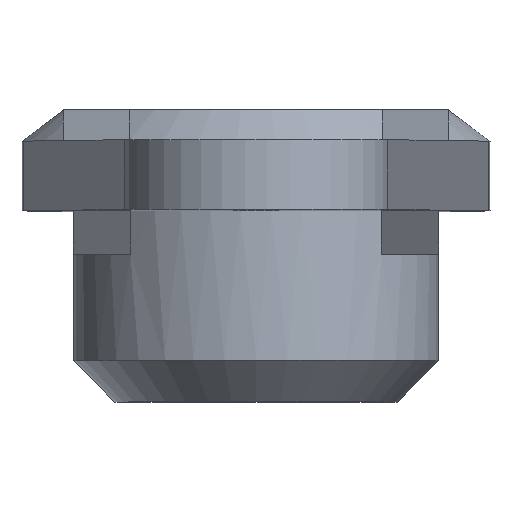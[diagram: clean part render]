
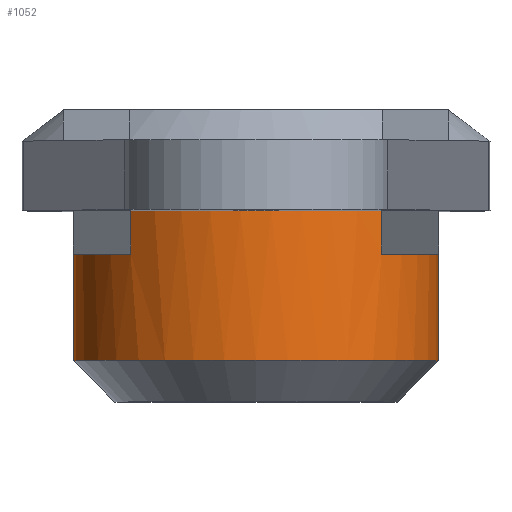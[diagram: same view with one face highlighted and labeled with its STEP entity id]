
A CAD part, top view. The second image highlights one B-rep face of the part: STEP entity #1052.
In plain terms, the highlighted cylindrical face has radius 5.5 mm (diameter 11 mm), a full revolution.
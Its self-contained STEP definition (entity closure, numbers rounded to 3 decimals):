
#24=CYLINDRICAL_SURFACE('',#1143,5.5);
#113=FACE_OUTER_BOUND('',#173,.T.);
#173=EDGE_LOOP('',(#803,#804,#805,#806,#807,#808,#809,#810,#811,#812,#813,
#814,#815));
#250=LINE('',#1582,#346);
#269=LINE('',#1639,#365);
#276=LINE('',#1658,#372);
#277=LINE('',#1663,#373);
#278=LINE('',#1667,#374);
#346=VECTOR('',#1261,10.);
#365=VECTOR('',#1304,10.);
#372=VECTOR('',#1321,5.5);
#373=VECTOR('',#1326,10.);
#374=VECTOR('',#1329,10.);
#434=CIRCLE('',#1130,5.5);
#436=CIRCLE('',#1138,5.5);
#437=CIRCLE('',#1144,5.5);
#438=CIRCLE('',#1145,5.5);
#439=CIRCLE('',#1146,5.5);
#440=CIRCLE('',#1147,5.5);
#441=CIRCLE('',#1148,5.5);
#494=VERTEX_POINT('',#1580);
#495=VERTEX_POINT('',#1581);
#500=VERTEX_POINT('',#1595);
#510=VERTEX_POINT('',#1632);
#511=VERTEX_POINT('',#1633);
#512=VERTEX_POINT('',#1638);
#516=VERTEX_POINT('',#1656);
#517=VERTEX_POINT('',#1660);
#518=VERTEX_POINT('',#1662);
#519=VERTEX_POINT('',#1664);
#520=VERTEX_POINT('',#1666);
#594=EDGE_CURVE('',#494,#495,#250,.T.);
#601=EDGE_CURVE('',#495,#500,#434,.T.);
#616=EDGE_CURVE('',#510,#511,#436,.T.);
#619=EDGE_CURVE('',#511,#512,#269,.T.);
#627=EDGE_CURVE('',#516,#516,#437,.T.);
#628=EDGE_CURVE('',#516,#510,#276,.T.);
#629=EDGE_CURVE('',#512,#494,#438,.T.);
#630=EDGE_CURVE('',#500,#517,#439,.T.);
#631=EDGE_CURVE('',#517,#518,#277,.T.);
#632=EDGE_CURVE('',#518,#519,#440,.T.);
#633=EDGE_CURVE('',#519,#520,#278,.T.);
#634=EDGE_CURVE('',#520,#510,#441,.T.);
#803=ORIENTED_EDGE('',*,*,#627,.F.);
#804=ORIENTED_EDGE('',*,*,#628,.T.);
#805=ORIENTED_EDGE('',*,*,#616,.T.);
#806=ORIENTED_EDGE('',*,*,#619,.T.);
#807=ORIENTED_EDGE('',*,*,#629,.T.);
#808=ORIENTED_EDGE('',*,*,#594,.T.);
#809=ORIENTED_EDGE('',*,*,#601,.T.);
#810=ORIENTED_EDGE('',*,*,#630,.T.);
#811=ORIENTED_EDGE('',*,*,#631,.T.);
#812=ORIENTED_EDGE('',*,*,#632,.T.);
#813=ORIENTED_EDGE('',*,*,#633,.T.);
#814=ORIENTED_EDGE('',*,*,#634,.T.);
#815=ORIENTED_EDGE('',*,*,#628,.F.);
#1052=ADVANCED_FACE('',(#113),#24,.T.);
#1130=AXIS2_PLACEMENT_3D('',#1596,#1272,#1273);
#1138=AXIS2_PLACEMENT_3D('',#1634,#1298,#1299);
#1143=AXIS2_PLACEMENT_3D('',#1655,#1317,#1318);
#1144=AXIS2_PLACEMENT_3D('',#1657,#1319,#1320);
#1145=AXIS2_PLACEMENT_3D('',#1659,#1322,#1323);
#1146=AXIS2_PLACEMENT_3D('',#1661,#1324,#1325);
#1147=AXIS2_PLACEMENT_3D('',#1665,#1327,#1328);
#1148=AXIS2_PLACEMENT_3D('',#1668,#1330,#1331);
#1261=DIRECTION('',(0.,-1.,0.));
#1272=DIRECTION('center_axis',(0.,-1.,0.));
#1273=DIRECTION('ref_axis',(1.,0.,0.));
#1298=DIRECTION('center_axis',(0.,-1.,0.));
#1299=DIRECTION('ref_axis',(1.,0.,0.));
#1304=DIRECTION('',(0.,1.,0.));
#1317=DIRECTION('center_axis',(0.,-1.,0.));
#1318=DIRECTION('ref_axis',(1.,0.,0.));
#1319=DIRECTION('center_axis',(0.,-1.,0.));
#1320=DIRECTION('ref_axis',(1.,0.,0.));
#1321=DIRECTION('',(0.,1.,0.));
#1322=DIRECTION('center_axis',(0.,-1.,0.));
#1323=DIRECTION('ref_axis',(1.,0.,0.));
#1324=DIRECTION('center_axis',(0.,-1.,0.));
#1325=DIRECTION('ref_axis',(1.,0.,0.));
#1326=DIRECTION('',(0.,1.,0.));
#1327=DIRECTION('center_axis',(0.,-1.,0.));
#1328=DIRECTION('ref_axis',(1.,0.,0.));
#1329=DIRECTION('',(0.,-1.,0.));
#1330=DIRECTION('center_axis',(0.,-1.,0.));
#1331=DIRECTION('ref_axis',(1.,0.,0.));
#1580=CARTESIAN_POINT('',(3.78,0.,-3.995));
#1581=CARTESIAN_POINT('',(3.78,-1.31,-3.995));
#1582=CARTESIAN_POINT('',(3.78,-2.255,-3.995));
#1595=CARTESIAN_POINT('',(5.5,-1.31,0.));
#1596=CARTESIAN_POINT('Origin',(0.,-1.31,0.));
#1632=CARTESIAN_POINT('',(-5.5,-1.31,0.));
#1633=CARTESIAN_POINT('',(-3.78,-1.31,-3.995));
#1634=CARTESIAN_POINT('Origin',(0.,-1.31,0.));
#1638=CARTESIAN_POINT('',(-3.78,0.,-3.995));
#1639=CARTESIAN_POINT('',(-3.78,-2.255,-3.995));
#1655=CARTESIAN_POINT('Origin',(0.,-2.255,0.));
#1656=CARTESIAN_POINT('',(-5.5,-4.51,0.));
#1657=CARTESIAN_POINT('Origin',(0.,-4.51,0.));
#1658=CARTESIAN_POINT('',(-5.5,-2.255,0.));
#1659=CARTESIAN_POINT('Origin',(0.,0.,0.));
#1660=CARTESIAN_POINT('',(3.78,-1.31,3.995));
#1661=CARTESIAN_POINT('Origin',(0.,-1.31,0.));
#1662=CARTESIAN_POINT('',(3.78,0.,3.995));
#1663=CARTESIAN_POINT('',(3.78,-2.255,3.995));
#1664=CARTESIAN_POINT('',(-3.78,0.,3.995));
#1665=CARTESIAN_POINT('Origin',(0.,0.,0.));
#1666=CARTESIAN_POINT('',(-3.78,-1.31,3.995));
#1667=CARTESIAN_POINT('',(-3.78,-2.255,3.995));
#1668=CARTESIAN_POINT('Origin',(0.,-1.31,0.));
